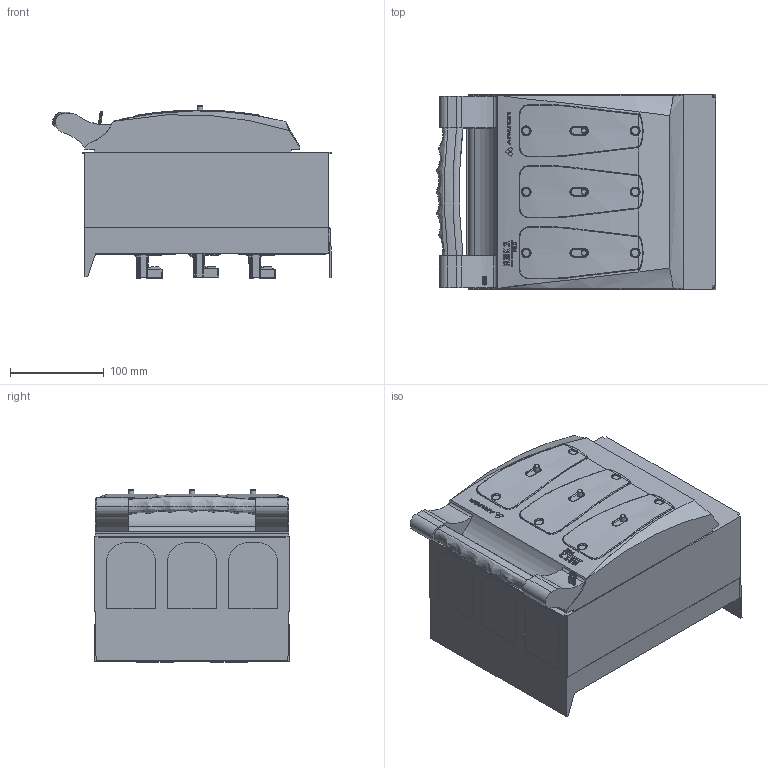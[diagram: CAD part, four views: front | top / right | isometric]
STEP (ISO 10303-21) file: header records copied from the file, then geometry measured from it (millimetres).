
FILE_DESCRIPTION(/* description */ (''),/* implementation_level */ '2;1');
FILE_NAME(/* name */ 'RBK 2 pro-M-SD.stp',/* time_stamp */ '2020-09-04T09:40:45+02:00',/* author */ (''),/* organization */ (''),/* preprocessor_version */ 'ST-DEVELOPER v16',/* originating_system */ 'SIEMENS PLM Software NX 10.0',/* authorisation */ '');
FILE_SCHEMA (('AUTOMOTIVE_DESIGN { 1 0 10303 214 3 1 1 1 }'));
Products named in the file (1): Apat0758F2DC4i2q
Bounding box: 297.76 x 208 x 184.12 mm (x, y, z)
Volume: 7199573.9 mm3; surface area: 356051.7 mm2
Topology: 1 solids, 1 shells, 1893 faces, 5157 edges, 3249 vertices
Faces by surface type: plane 1067, cylinder 362, bspline 301, extrusion 95, sphere 43, torus 16, cone 9
Full cylindrical faces by diameter (mm): 6 x3, 11 x3
Entity records: 71540 total; most frequent: CARTESIAN_POINT 25303, ORIENTED_EDGE 10070, DIRECTION 9384, EDGE_CURVE 5035, AXIS2_PLACEMENT_3D 3505, VERTEX_POINT 3227, VECTOR 2374, LINE 2279
